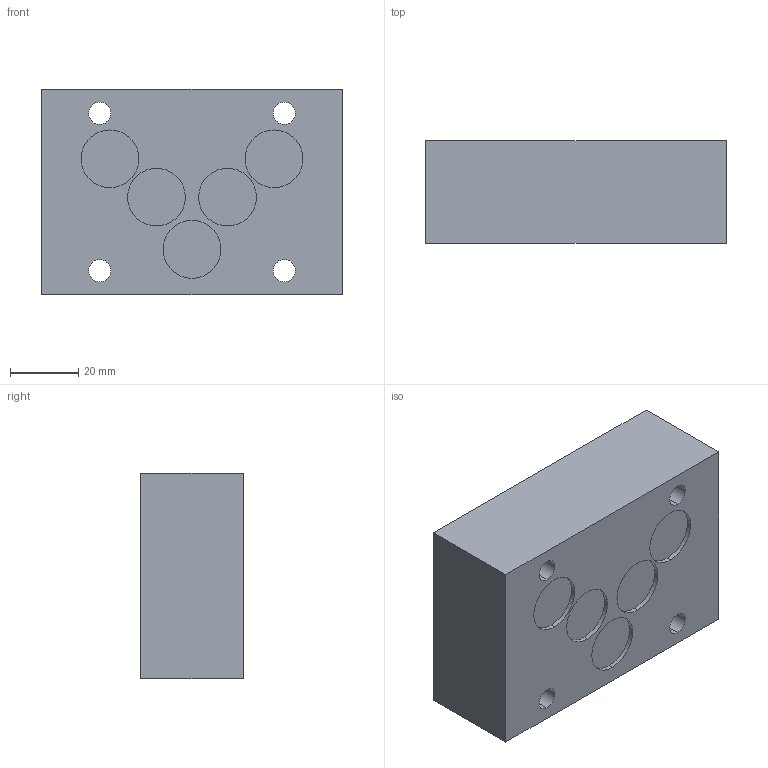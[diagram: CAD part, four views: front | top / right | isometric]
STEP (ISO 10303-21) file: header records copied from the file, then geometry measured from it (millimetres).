
FILE_DESCRIPTION (( 'STEP AP214' ), '1' );
FILE_NAME ('A_10.STEP', '2019-12-16T14:27:44', ( '' ), ( '' ), 'SwSTEP 2.0', 'SolidWorks 2018', '' );
FILE_SCHEMA (( 'AUTOMOTIVE_DESIGN' ));
Length unit declared in the file: millimetre
Products named in the file (1): A_10
Bounding box: 88 x 30 x 60 mm (x, y, z)
Volume: 152960 mm3; surface area: 21970.1 mm2
Topology: 1 solids, 1 shells, 29 faces, 66 edges, 44 vertices
Faces by surface type: cylinder 18, plane 11
Entity records: 886 total; most frequent: DIRECTION 162, CARTESIAN_POINT 140, ORIENTED_EDGE 132, AXIS2_PLACEMENT_3D 66, EDGE_CURVE 66, VERTEX_POINT 44, EDGE_LOOP 42, CIRCLE 36
